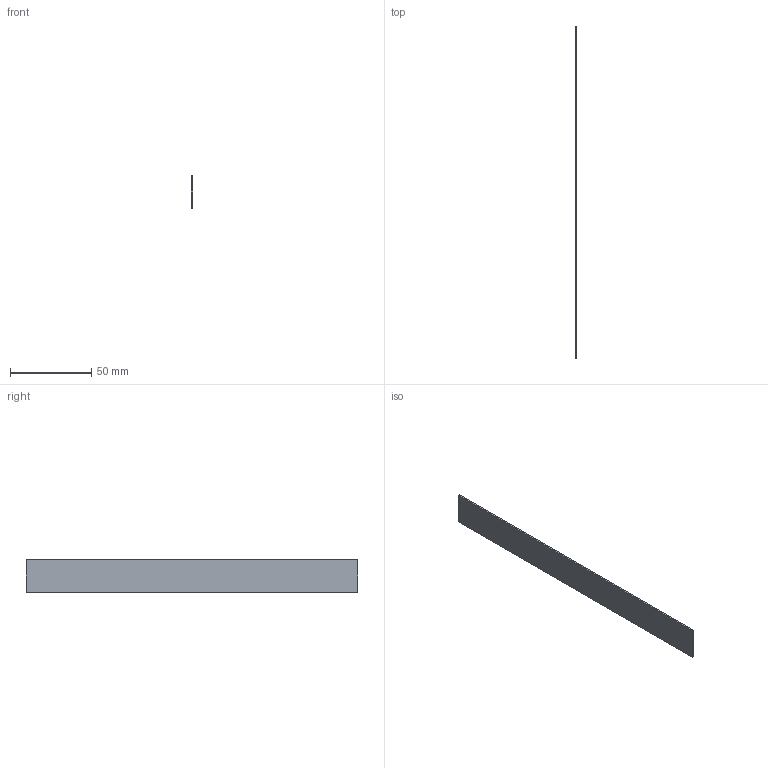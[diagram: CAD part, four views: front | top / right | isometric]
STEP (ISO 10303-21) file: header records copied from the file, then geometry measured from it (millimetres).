
FILE_DESCRIPTION(('STEP AP214'),'1');
FILE_NAME('.step','2025-06-17T06:48:53',(' '),('ANSOFT Corporation'),'Spatial InterOp 3D',' ',' ');
FILE_SCHEMA(('AUTOMOTIVE_DESIGN { 1 0 10303 214 1 1 1 1 }'));
Length unit declared in the file: millimetre
Products named in the file (1): Box73_2_1
Bounding box: 1 x 204.61 x 20 mm (x, y, z)
Volume: 4092.2 mm3; surface area: 8633.5 mm2
Topology: 1 solids, 1 shells, 6 faces, 12 edges, 8 vertices
Faces by surface type: plane 6
Entity records: 180 total; most frequent: CARTESIAN_POINT 27, DIRECTION 26, ORIENTED_EDGE 24, EDGE_CURVE 12, LINE 12, VECTOR 12, VERTEX_POINT 8, AXIS2_PLACEMENT_3D 7
